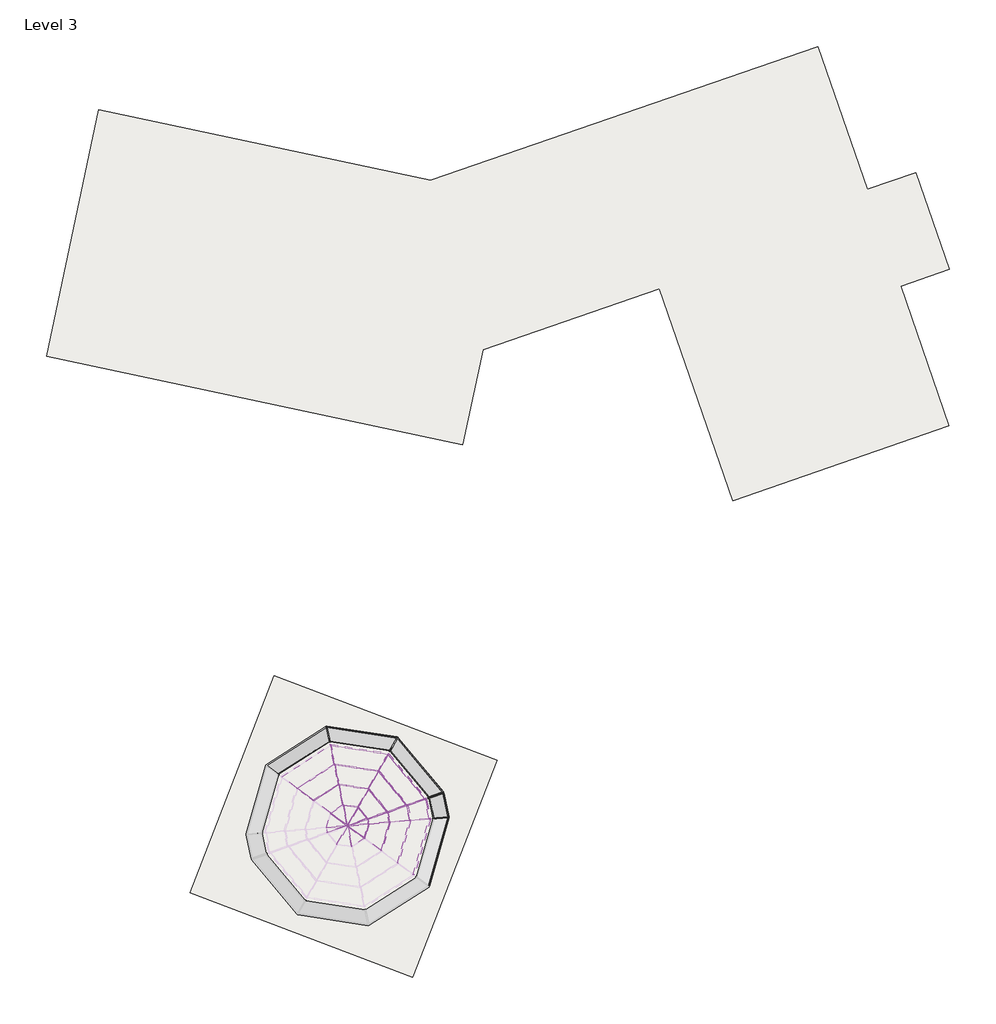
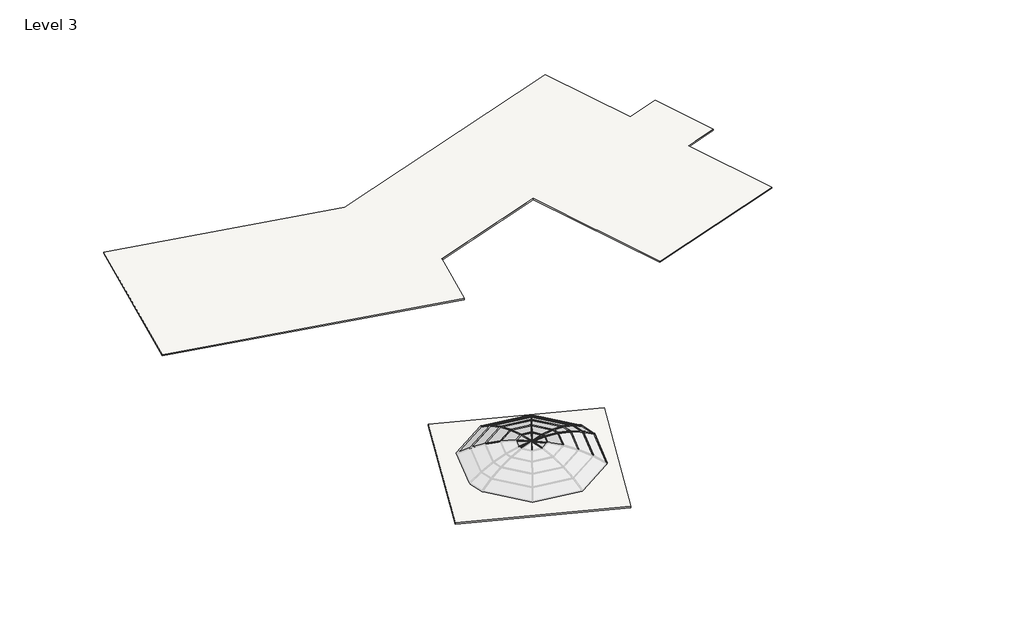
# One storey, part 2 of 2: 53 members, 25 plates, 1 slab.
"""IFC4 building model written with IfcOpenShell, lengths in millimetres."""

from ifc_helpers import new_model, si_unit, frame, origin, place, context, project, spatial, polyline, outline, extrude, transform, mapped, element, save
from components import rectangular_mullion_50_x_150mm_0909581f, rectangular_mullion_50_x_150mm_8f23feb4, rectangular_mullion_50_x_150mm_fa7cbd31, rectangular_mullion_50_x_150mm_524ad4e4, rectangular_mullion_50_x_150mm_5546df2b, rectangular_mullion_50_x_150mm_b59a5eb5, rectangular_mullion_50_x_150mm_e05598f6, rectangular_mullion_50_x_150mm_a9043509, rectangular_mullion_50_x_150mm_2f4e9f07, rectangular_mullion_50_x_150mm_9374ec4e, rectangular_mullion_50_x_150mm_1d4ffcc8, rectangular_mullion_50_x_150mm_7729aa8c, rectangular_mullion_50_x_150mm_591d99be, rectangular_mullion_50_x_150mm_0f1075ed, rectangular_mullion_50_x_150mm_c27df651, rectangular_mullion_50_x_150mm_b8fa2365, rectangular_mullion_50_x_150mm_1a41200d, rectangular_mullion_50_x_150mm_fc893f09, rectangular_mullion_50_x_150mm_32bfd31b, rectangular_mullion_50_x_150mm_eddbecf3, rectangular_mullion_50_x_150mm_9946c6b2, rectangular_mullion_50_x_150mm_2f072838, rectangular_mullion_50_x_150mm_7f1d5474, rectangular_mullion_50_x_150mm_eba0d472, rectangular_mullion_50_x_150mm_90fb33a8, rectangular_mullion_50_x_150mm_7cf9c824, rectangular_mullion_50_x_150mm_acd3cb19, rectangular_mullion_50_x_150mm_fa5f5fe4, rectangular_mullion_50_x_150mm_29780cc7, system_panel_glazed_c7fad30a, system_panel_glazed_a26e994d, system_panel_glazed_567528ff, system_panel_glazed_ac238529, system_panel_glazed_37e80246, system_panel_glazed_b58a9e73, system_panel_glazed_1f3aabbd, system_panel_glazed_1b0430f5, system_panel_glazed_21f1f6a8, system_panel_glazed_6bfca4de, system_panel_glazed_ad1a7a07, system_panel_glazed_1b021a4a, system_panel_glazed_64c42520, system_panel_glazed_b4e5deec, system_panel_glazed_fcd4964b, system_panel_glazed_13aa26b2, system_panel_glazed_f44d88c0, system_panel_glazed_820ae4db, system_panel_glazed_345259cc, system_panel_glazed_0d988e88

model = new_model("IFC4")

# Units and contexts
model_context = context("Model", 3, world=origin())
ifc_project = project(units=[si_unit("LENGTHUNIT", "METRE", prefix="MILLI")], contexts=[model_context])

# Site, building, storey
site = spatial("IfcSite", under=ifc_project)
building = spatial("IfcBuilding", under=site)
storey = spatial("IfcBuildingStorey", under=building, Name="Level 3", Elevation=8400.0)

# Members
placement = place(None, origin())
rectangular_mullion_50_x_150mm_shape = rectangular_mullion_50_x_150mm_0909581f(model_context)
element("IfcMember", 1, ObjectType="Rectangular Mullion : 50 x 150mm", at=placement, inside=storey, context=model_context, shape_type="MappedRepresentation", body=[
    mapped(rectangular_mullion_50_x_150mm_shape, transform((466956.3515694, -15447.4692946, 11000.1218974), x_axis=(-0.3264366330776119, 0.9452172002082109, 0.0018891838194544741), y_axis=(-0.015041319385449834, -0.003196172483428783, -0.9998817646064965), z_axis=(-0.945099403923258, -0.32642645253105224, 0.01526066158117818))),
])
element("IfcMember", 2, ObjectType="Rectangular Mullion : 50 x 150mm", at=placement, inside=storey, context=model_context, shape_type="MappedRepresentation", body=[
    mapped(rectangular_mullion_50_x_150mm_shape, transform((466951.5499053, -15449.1277341, 11000.1218974), x_axis=(0.32643663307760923, -0.9452172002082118, 0.001889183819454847), y_axis=(0.015041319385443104, 0.0031961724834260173, -0.9998817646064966), z_axis=(0.945099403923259, 0.32642645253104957, 0.015260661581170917))),
])
rectangular_mullion_50_x_150mm_2_shape = rectangular_mullion_50_x_150mm_8f23feb4(model_context)
element("IfcMember", 3, ObjectType="Rectangular Mullion : 50 x 150mm", at=placement, inside=storey, context=model_context, shape_type="MappedRepresentation", body=[
    mapped(rectangular_mullion_50_x_150mm_2_shape, transform((466952.7000097, -15450.5092338, 11000.1218974), x_axis=(0.8703619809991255, -0.49241245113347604, -1.2647649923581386e-12), y_axis=(0.007514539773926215, 0.013282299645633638, -0.9998835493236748), z_axis=(0.4923551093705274, 0.8702606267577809, 0.01526066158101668))),
])
element("IfcMember", 4, ObjectType="Rectangular Mullion : 50 x 150mm", at=placement, inside=storey, context=model_context, shape_type="MappedRepresentation", body=[
    mapped(rectangular_mullion_50_x_150mm_2_shape, transform((466954.4765406, -15450.7834955, 11000.1218974), x_axis=(0.9783390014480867, 0.2070091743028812, 1.9024489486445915e-12), y_axis=(-0.0031590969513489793, 0.014930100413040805, -0.9998835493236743), z_axis=(-0.2069850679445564, 0.9782250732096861, 0.015260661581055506))),
])
element("IfcMember", 5, ObjectType="Rectangular Mullion : 50 x 150mm", at=placement, inside=storey, context=model_context, shape_type="MappedRepresentation", body=[
    mapped(rectangular_mullion_50_x_150mm_2_shape, transform((466955.9897232, -15449.8131552, 11000.1218974), x_axis=(0.5963152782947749, 0.80275032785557, 1.377597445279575e-12), y_axis=(-0.012250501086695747, 0.009100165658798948, -0.9998835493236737), z_axis=(-0.8026568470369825, 0.5962458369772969, 0.015260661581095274))),
])
element("IfcMember", 6, ObjectType="Rectangular Mullion : 50 x 150mm", at=placement, inside=storey, context=model_context, shape_type="MappedRepresentation", body=[
    mapped(rectangular_mullion_50_x_150mm_2_shape, transform((466956.4816803, -15448.0842076, 11000.1218974), x_axis=(-0.08437274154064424, 0.9964342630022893, 0.0), y_axis=(-0.015206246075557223, -0.0012875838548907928, -0.9998835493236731), z_axis=(-0.9963182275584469, -0.08436291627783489, 0.015260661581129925))),
])
element("IfcMember", 7, ObjectType="Rectangular Mullion : 50 x 150mm", at=placement, inside=storey, context=model_context, shape_type="MappedRepresentation", body=[
    mapped(rectangular_mullion_50_x_150mm_2_shape, transform((466955.2014649, -15446.087795, 11000.1218974), x_axis=(-0.8703619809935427, 0.492412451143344, 0.0), y_axis=(-0.007514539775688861, -0.013282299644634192, -0.9998835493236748), z_axis=(-0.4923551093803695, -0.8702606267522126, 0.015260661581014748))),
])
element("IfcMember", 8, ObjectType="Rectangular Mullion : 50 x 150mm", at=placement, inside=storey, context=model_context, shape_type="MappedRepresentation", body=[
    mapped(rectangular_mullion_50_x_150mm_2_shape, transform((466953.424934, -15445.8135333, 11000.1218974), x_axis=(-0.9783390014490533, -0.20700917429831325, 0.0), y_axis=(0.0031590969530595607, -0.014930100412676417, -0.9998835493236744), z_axis=(0.20698506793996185, -0.9782250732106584, 0.015260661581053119))),
])
element("IfcMember", 9, ObjectType="Rectangular Mullion : 50 x 150mm", at=placement, inside=storey, context=model_context, shape_type="MappedRepresentation", body=[
    mapped(rectangular_mullion_50_x_150mm_2_shape, transform((466951.9117515, -15446.7838736, 11000.1218974), x_axis=(-0.5963152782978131, -0.8027503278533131, 0.0), y_axis=(0.012250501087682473, -0.009100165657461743, -0.9998835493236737), z_axis=(0.8026568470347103, -0.5962458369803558, 0.015260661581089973))),
])
element("IfcMember", 10, ObjectType="Rectangular Mullion : 50 x 150mm", at=placement, inside=storey, context=model_context, shape_type="MappedRepresentation", body=[
    mapped(rectangular_mullion_50_x_150mm_2_shape, transform((466951.4197943, -15448.5128212, 11000.1218974), x_axis=(0.08437274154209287, -0.9964342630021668, 0.0), y_axis=(0.015206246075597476, 0.0012875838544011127, -0.9998835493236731), z_axis=(0.9963182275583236, 0.08436291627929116, 0.015260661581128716))),
])
rectangular_mullion_50_x_150mm_3_shape = rectangular_mullion_50_x_150mm_fa7cbd31(model_context)
element("IfcMember", 11, ObjectType="Rectangular Mullion : 50 x 150mm", at=placement, inside=storey, context=model_context, shape_type="MappedRepresentation", body=[
    mapped(rectangular_mullion_50_x_150mm_3_shape, transform((467708.4798121, -14162.1188113, 10977.2696344), x_axis=(0.7664844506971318, 0.6381016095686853, -0.07299262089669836), y_axis=(-0.05609734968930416, -0.0467012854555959, -0.9973324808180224), z_axis=(-0.639808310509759, 0.7685345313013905, 0.0))),
])
rectangular_mullion_50_x_150mm_4_shape = rectangular_mullion_50_x_150mm_524ad4e4(model_context)
element("IfcMember", 12, ObjectType="Rectangular Mullion : 50 x 150mm", at=placement, inside=storey, context=model_context, shape_type="MappedRepresentation", body=[
    mapped(rectangular_mullion_50_x_150mm_4_shape, transform((468441.5885625, -15345.799468, 10977.2696344), x_axis=(0.9592556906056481, -0.27294797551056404, -0.07299262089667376), y_axis=(-0.07020586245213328, 0.019976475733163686, -0.9973324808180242), z_axis=(0.27367801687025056, 0.9618213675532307, 0.0))),
])
element("IfcMember", 13, ObjectType="Rectangular Mullion : 50 x 150mm", at=placement, inside=storey, context=model_context, shape_type="MappedRepresentation", body=[
    mapped(rectangular_mullion_50_x_150mm_4_shape, transform((466668.1799348, -13984.7728393, 10977.2696344), x_axis=(0.1521659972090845, 0.9856559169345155, -0.07299262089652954), y_axis=(-0.011136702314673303, -0.07213803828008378, -0.9973324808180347), z_axis=(-0.9882922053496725, 0.15257298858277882, 0.0))),
])
rectangular_mullion_50_x_150mm_5_shape = rectangular_mullion_50_x_150mm_5546df2b(model_context)
element("IfcMember", 14, ObjectType="Rectangular Mullion : 50 x 150mm", at=placement, inside=storey, context=model_context, shape_type="MappedRepresentation", body=[
    mapped(rectangular_mullion_50_x_150mm_5_shape, transform((468381.952611, -15007.5749881, 10977.2696344), x_axis=(0.9753948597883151, 0.2063862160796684, -0.07752159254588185), y_axis=(-0.07584239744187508, -0.016047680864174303, -0.9969906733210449), z_axis=(-0.20700917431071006, 0.97833900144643, 0.0))),
])
rectangular_mullion_50_x_150mm_6_shape = rectangular_mullion_50_x_150mm_b59a5eb5(model_context)
element("IfcMember", 15, ObjectType="Rectangular Mullion : 50 x 150mm", at=placement, inside=storey, context=model_context, shape_type="MappedRepresentation", body=[
    mapped(rectangular_mullion_50_x_150mm_6_shape, transform((468439.707526, -12869.6397113, 10765.6005375), x_axis=(0.7544484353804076, 0.628081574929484, -0.1905809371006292), y_axis=(-0.1464680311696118, -0.12193526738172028, -0.9816714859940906), z_axis=(-0.6398083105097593, 0.76853453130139, 0.0))),
])
rectangular_mullion_50_x_150mm_7_shape = rectangular_mullion_50_x_150mm_e05598f6(model_context)
element("IfcMember", 16, ObjectType="Rectangular Mullion : 50 x 150mm", at=placement, inside=storey, context=model_context, shape_type="MappedRepresentation", body=[
    mapped(rectangular_mullion_50_x_150mm_7_shape, transform((469921.2837784, -15220.5067652, 10765.6005375), x_axis=(0.944192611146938, -0.2686619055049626, -0.1905809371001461), y_axis=(-0.18330481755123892, 0.052157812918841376, -0.9816714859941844), z_axis=(0.27367801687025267, 0.9618213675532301, 0.0))),
])
element("IfcMember", 17, ObjectType="Rectangular Mullion : 50 x 150mm", at=placement, inside=storey, context=model_context, shape_type="MappedRepresentation", body=[
    mapped(rectangular_mullion_50_x_150mm_7_shape, transform((466360.7733188, -12531.9489112, 10765.6005375), x_axis=(0.1497765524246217, 0.9701782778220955, -0.1905809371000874), y_axis=(-0.029077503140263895, -0.18834965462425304, -0.9816714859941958), z_axis=(-0.9882922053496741, 0.15257298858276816, 0.0))),
])
element("IfcMember", 18, ObjectType="Rectangular Mullion : 50 x 150mm", at=placement, inside=storey, context=model_context, shape_type="MappedRepresentation", body=[
    mapped(rectangular_mullion_50_x_150mm_7_shape, transform((464578.9318123, -13654.9107806, 10765.6005375), x_axis=(-0.5299108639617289, 0.8263615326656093, -0.19058093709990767), y_axis=(0.1028764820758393, -0.16042918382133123, -0.9816714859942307), z_axis=(-0.8417902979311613, -0.5398046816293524, 0.0))),
])
rectangular_mullion_50_x_150mm_8_shape = rectangular_mullion_50_x_150mm_a9043509(model_context)
element("IfcMember", 19, ObjectType="Rectangular Mullion : 50 x 150mm", at=placement, inside=storey, context=model_context, shape_type="MappedRepresentation", body=[
    mapped(rectangular_mullion_50_x_150mm_8_shape, transform((469785.5795124, -14522.7784173, 10765.6005375), x_axis=(0.9582144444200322, 0.2027509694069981, -0.2017848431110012), y_axis=(-0.19741398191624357, -0.04177131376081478, -0.979429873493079), z_axis=(-0.20700917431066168, 0.9783390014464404, 0.0))),
])
rectangular_mullion_50_x_150mm_9_shape = rectangular_mullion_50_x_150mm_2f4e9f07(model_context)
element("IfcMember", 20, ObjectType="Rectangular Mullion : 50 x 150mm", at=placement, inside=storey, context=model_context, shape_type="MappedRepresentation", body=[
    mapped(rectangular_mullion_50_x_150mm_9_shape, transform((469151.9560944, -11610.7071366, 10368.3717003), x_axis=(0.7316393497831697, 0.6090929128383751, -0.30612037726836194), y_axis=(-0.23526408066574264, -0.19585836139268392, -0.951992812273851), z_axis=(-0.6398083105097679, 0.7685345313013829, 0.0))),
])
rectangular_mullion_50_x_150mm_10_shape = rectangular_mullion_50_x_150mm_9374ec4e(model_context)
element("IfcMember", 21, ObjectType="Rectangular Mullion : 50 x 150mm", at=placement, inside=storey, context=model_context, shape_type="MappedRepresentation", body=[
    mapped(rectangular_mullion_50_x_150mm_10_shape, transform((471362.5732415, -15098.4660568, 10368.3717003), x_axis=(0.9156470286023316, -0.2605395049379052, -0.3061203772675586), y_axis=(-0.2944331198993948, 0.08377841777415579, -0.9519928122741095), z_axis=(0.27367801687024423, 0.9618213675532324, 0.0))),
])
element("IfcMember", 22, ObjectType="Rectangular Mullion : 50 x 150mm", at=placement, inside=storey, context=model_context, shape_type="MappedRepresentation", body=[
    mapped(rectangular_mullion_50_x_150mm_10_shape, transform((466061.3454963, -11116.833287, 10368.3717003), x_axis=(0.14524838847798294, 0.9408470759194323, -0.3061203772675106), y_axis=(-0.046705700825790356, -0.30253638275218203, -0.9519928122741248), z_axis=(-0.9882922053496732, 0.15257298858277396, 0.0))),
])
rectangular_mullion_50_x_150mm_11_shape = rectangular_mullion_50_x_150mm_1d4ffcc8(model_context)
element("IfcMember", 23, ObjectType="Rectangular Mullion : 50 x 150mm", at=placement, inside=storey, context=model_context, shape_type="MappedRepresentation", body=[
    mapped(rectangular_mullion_50_x_150mm_11_shape, transform((471152.7750276, -14050.5648278, 10368.3717003), x_axis=(0.9259277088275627, 0.1959193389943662, -0.322914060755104), y_axis=(-0.3159194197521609, -0.06684617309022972, -0.9464282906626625), z_axis=(-0.20700917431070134, 0.978339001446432, 0.0))),
])
rectangular_mullion_50_x_150mm_12_shape = rectangular_mullion_50_x_150mm_7729aa8c(model_context)
element("IfcMember", 24, ObjectType="Rectangular Mullion : 50 x 150mm", at=placement, inside=storey, context=model_context, shape_type="MappedRepresentation", body=[
    mapped(rectangular_mullion_50_x_150mm_12_shape, transform((469833.8554994, -10405.4181242, 9791.9243064), x_axis=(0.6980475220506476, 0.5811275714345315, -0.418354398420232), y_axis=(-0.32151980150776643, -0.26766662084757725, -0.9082838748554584), z_axis=(-0.639808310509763, 0.7685345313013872, 0.0))),
])
rectangular_mullion_50_x_150mm_13_shape = rectangular_mullion_50_x_150mm_591d99be(model_context)
element("IfcMember", 25, ObjectType="Rectangular Mullion : 50 x 150mm", at=placement, inside=storey, context=model_context, shape_type="MappedRepresentation", body=[
    mapped(rectangular_mullion_50_x_150mm_13_shape, transform((472742.4488508, -14981.6255461, 9791.9243064), x_axis=(0.8736068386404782, -0.24857732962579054, -0.4183543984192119), y_axis=(-0.4023821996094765, 0.11449440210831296, -0.9082838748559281), z_axis=(0.27367801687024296, 0.9618213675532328, 0.0))),
])
element("IfcMember", 26, ObjectType="Rectangular Mullion : 50 x 150mm", at=placement, inside=storey, context=model_context, shape_type="MappedRepresentation", body=[
    mapped(rectangular_mullion_50_x_150mm_13_shape, transform((465774.6763992, -9762.01624, 9791.9243064), x_axis=(0.13857958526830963, 0.8976498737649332, -0.4183543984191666), y_axis=(-0.0638295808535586, -0.4134563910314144, -0.9082838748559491), z_axis=(-0.988292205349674, 0.15257298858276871, 0.0))),
])
rectangular_mullion_50_x_150mm_14_shape = rectangular_mullion_50_x_150mm_0f1075ed(model_context)
element("IfcMember", 27, ObjectType="Rectangular Mullion : 50 x 150mm", at=placement, inside=storey, context=model_context, shape_type="MappedRepresentation", body=[
    mapped(rectangular_mullion_50_x_150mm_14_shape, transform((472461.7138584, -13598.4724264, 9791.9243064), x_axis=(0.8789890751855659, 0.18598747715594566, -0.43907500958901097), y_axis=(-0.42956420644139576, -0.09089255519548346, -0.8984504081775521), z_axis=(-0.20700917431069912, 0.9783390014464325, 0.0))),
])
rectangular_mullion_50_x_150mm_15_shape = rectangular_mullion_50_x_150mm_c27df651(model_context)
element("IfcMember", 28, ObjectType="Rectangular Mullion : 50 x 150mm", at=placement, inside=storey, context=model_context, shape_type="MappedRepresentation", body=[
    mapped(rectangular_mullion_50_x_150mm_15_shape, transform((470474.5202036, -9273.0133692, 9045.4605044), x_axis=(0.6537057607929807, 0.5442128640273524, -0.5258337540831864), y_axis=(-0.40412139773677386, -0.33643280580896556, -0.8505873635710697), z_axis=(-0.6398083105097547, 0.768534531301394, 0.0))),
])
rectangular_mullion_50_x_150mm_16_shape = rectangular_mullion_50_x_150mm_b8fa2365(model_context)
element("IfcMember", 29, ObjectType="Rectangular Mullion : 50 x 150mm", at=placement, inside=storey, context=model_context, shape_type="MappedRepresentation", body=[
    mapped(rectangular_mullion_50_x_150mm_16_shape, transform((474038.8828887, -14871.8504229, 9045.4605044), x_axis=(0.818113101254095, -0.23278706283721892, -0.5258337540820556), y_axis=(-0.5057581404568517, 0.143909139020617, -0.8505873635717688), z_axis=(0.2736780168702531, 0.9618213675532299, 0.0))),
])
element("IfcMember", 30, ObjectType="Rectangular Mullion : 50 x 150mm", at=placement, inside=storey, context=model_context, shape_type="MappedRepresentation", body=[
    mapped(rectangular_mullion_50_x_150mm_16_shape, transform((465505.3422848, -8489.1254642, 9045.4605044), x_axis=(0.12977665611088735, 0.840628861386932, -0.5258337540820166), y_axis=(-0.08022802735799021, -0.5196774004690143, -0.8505873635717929), z_axis=(-0.9882922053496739, 0.15257298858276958, 0.0))),
])
rectangular_mullion_50_x_150mm_17_shape = rectangular_mullion_50_x_150mm_1a41200d(model_context)
element("IfcMember", 31, ObjectType="Rectangular Mullion : 50 x 150mm", at=placement, inside=storey, context=model_context, shape_type="MappedRepresentation", body=[
    mapped(rectangular_mullion_50_x_150mm_17_shape, transform((473691.5006901, -13173.7182141, 9045.4605044), x_axis=(0.8180663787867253, 0.1730966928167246, -0.5484568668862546), y_axis=(-0.5365767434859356, -0.1135356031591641, -0.8361788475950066), z_axis=(-0.20700917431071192, 0.9783390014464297, 0.0))),
])
rectangular_mullion_50_x_150mm_18_shape = rectangular_mullion_50_x_150mm_fc893f09(model_context)
element("IfcMember", 32, ObjectType="Rectangular Mullion : 50 x 150mm", at=placement, inside=storey, context=model_context, shape_type="MappedRepresentation", body=[
    mapped(rectangular_mullion_50_x_150mm_18_shape, transform((468371.6021523, -14958.6580381, 10977.2696344), x_axis=(-0.32406754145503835, 0.9458736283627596, 0.01741573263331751), y_axis=(-0.1391035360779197, -0.02943326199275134, -0.9898403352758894), z_axis=(-0.9357512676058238, -0.32319771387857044, 0.1411127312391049))),
])
rectangular_mullion_50_x_150mm_19_shape = rectangular_mullion_50_x_150mm_32bfd31b(model_context)
element("IfcMember", 33, ObjectType="Rectangular Mullion : 50 x 150mm", at=placement, inside=storey, context=model_context, shape_type="MappedRepresentation", body=[
    mapped(rectangular_mullion_50_x_150mm_19_shape, transform((469775.2290537, -14473.8614672, 10765.6005375), x_axis=(-0.31802625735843, 0.9475476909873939, 0.03182252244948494), y_axis=(-0.26094686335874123, -0.055214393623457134, -0.963772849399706), z_axis=(-0.9114636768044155, -0.3148090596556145, 0.2648192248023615))),
])
rectangular_mullion_50_x_150mm_20_shape = rectangular_mullion_50_x_150mm_eddbecf3(model_context)
element("IfcMember", 34, ObjectType="Rectangular Mullion : 50 x 150mm", at=placement, inside=storey, context=model_context, shape_type="MappedRepresentation", body=[
    mapped(rectangular_mullion_50_x_150mm_20_shape, transform((471142.4245689, -14001.6478778, 10368.3717003), x_axis=(-0.30870523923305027, 0.950130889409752, 0.04418561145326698), y_axis=(-0.3784509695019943, -0.08007737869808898, -0.9221510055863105), z_axis=(-0.8726258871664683, -0.3013949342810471, 0.3842982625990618))),
])
rectangular_mullion_50_x_150mm_21_shape = rectangular_mullion_50_x_150mm_9946c6b2(model_context)
element("IfcMember", 35, ObjectType="Rectangular Mullion : 50 x 150mm", at=placement, inside=storey, context=model_context, shape_type="MappedRepresentation", body=[
    mapped(rectangular_mullion_50_x_150mm_21_shape, transform((472451.3633997, -13549.5554763, 9791.9243064), x_axis=(-0.2967079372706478, 0.9534563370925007, 0.053716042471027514), y_axis=(-0.4896911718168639, -0.1036149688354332, -0.8657173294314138), z_axis=(-0.819857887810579, -0.2831694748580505, 0.49764253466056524))),
])
rectangular_mullion_50_x_150mm_22_shape = rectangular_mullion_50_x_150mm_2f072838(model_context)
element("IfcMember", 36, ObjectType="Rectangular Mullion : 50 x 150mm", at=placement, inside=storey, context=model_context, shape_type="MappedRepresentation", body=[
    mapped(rectangular_mullion_50_x_150mm_22_shape, transform((468448.4305129, -15321.7539339, 10977.2696344), x_axis=(-0.08437274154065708, 0.9964342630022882, 0.0), y_axis=(-0.1406095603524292, -0.01190606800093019, -0.9899935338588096), z_axis=(-0.986463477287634, -0.08352846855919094, 0.14111273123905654))),
])
element("IfcMember", 37, ObjectType="Rectangular Mullion : 50 x 150mm", at=placement, inside=storey, context=model_context, shape_type="MappedRepresentation", body=[
    mapped(rectangular_mullion_50_x_150mm_22_shape, transform((467692.4846043, -14142.905448, 10977.2696344), x_axis=(-0.8703619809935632, 0.49241245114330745, 0.0), y_axis=(-0.0694856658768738, -0.12281915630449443, -0.9899935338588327), z_axis=(-0.4874851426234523, -0.8616527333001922, 0.14111273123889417))),
])
element("IfcMember", 38, ObjectType="Rectangular Mullion : 50 x 150mm", at=placement, inside=storey, context=model_context, shape_type="MappedRepresentation", body=[
    mapped(rectangular_mullion_50_x_150mm_22_shape, transform((466643.4726297, -13980.9585145, 10977.2696344), x_axis=(-0.9783390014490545, -0.20700917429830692, 0.0), y_axis=(0.02921162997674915, -0.13805608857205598, -0.9899935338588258), z_axis=(0.20493774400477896, -0.9685492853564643, 0.14111273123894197))),
])
rectangular_mullion_50_x_150mm_23_shape = rectangular_mullion_50_x_150mm_7f1d5474(model_context)
element("IfcMember", 39, ObjectType="Rectangular Mullion : 50 x 150mm", at=placement, inside=storey, context=model_context, shape_type="MappedRepresentation", body=[
    mapped(rectangular_mullion_50_x_150mm_23_shape, transform((469928.1257288, -15196.461231, 10765.6005375), x_axis=(-0.08437274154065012, 0.9964342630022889, 0.0), y_axis=(-0.2638749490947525, -0.022343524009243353, -0.964298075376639), z_axis=(-0.960859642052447, -0.08136047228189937, 0.26481922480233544))),
])
element("IfcMember", 40, ObjectType="Rectangular Mullion : 50 x 150mm", at=placement, inside=storey, context=model_context, shape_type="MappedRepresentation", body=[
    mapped(rectangular_mullion_50_x_150mm_23_shape, transform((471369.4151919, -15074.4205226, 10368.3717003), x_axis=(-0.0843727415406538, 0.9964342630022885, 0.0), y_axis=(-0.3829279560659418, -0.03242429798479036, -0.923208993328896), z_axis=(-0.9199170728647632, -0.0778936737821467, 0.38429826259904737))),
])
element("IfcMember", 41, ObjectType="Rectangular Mullion : 50 x 150mm", at=placement, inside=storey, context=model_context, shape_type="MappedRepresentation", body=[
    mapped(rectangular_mullion_50_x_150mm_23_shape, transform((468423.7123183, -12850.4263481, 10765.6005375), x_axis=(-0.8703619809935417, 0.49241245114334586, 0.0), y_axis=(-0.13040028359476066, -0.23048858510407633, -0.9642980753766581), z_axis=(-0.47483237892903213, -0.839288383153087, 0.2648192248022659))),
])
element("IfcMember", 42, ObjectType="Rectangular Mullion : 50 x 150mm", at=placement, inside=storey, context=model_context, shape_type="MappedRepresentation", body=[
    mapped(rectangular_mullion_50_x_150mm_23_shape, transform((469135.9608867, -11591.4937733, 10368.3717003), x_axis=(-0.8703619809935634, 0.49241245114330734, 0.0), y_axis=(-0.18923324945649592, -0.334478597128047, -0.9232089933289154), z_axis=(-0.4545996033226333, -0.8035260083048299, 0.3842982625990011))),
])
element("IfcMember", 43, ObjectType="Rectangular Mullion : 50 x 150mm", at=placement, inside=storey, context=model_context, shape_type="MappedRepresentation", body=[
    mapped(rectangular_mullion_50_x_150mm_23_shape, transform((466336.0660137, -12528.1345865, 10765.6005375), x_axis=(-0.9783390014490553, -0.2070091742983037, 0.0), y_axis=(0.05482000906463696, -0.2590829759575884, -0.9642980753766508), z_axis=(0.19961854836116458, -0.9434104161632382, 0.2648192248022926))),
])
element("IfcMember", 44, ObjectType="Rectangular Mullion : 50 x 150mm", at=placement, inside=storey, context=model_context, shape_type="MappedRepresentation", body=[
    mapped(rectangular_mullion_50_x_150mm_23_shape, transform((466036.6381911, -11113.0189623, 10368.3717003), x_axis=(-0.9783390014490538, -0.20700917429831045, 0.0), y_axis=(0.07955326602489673, -0.3759739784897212, -0.9232089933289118), z_axis=(0.1911127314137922, -0.9032113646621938, 0.38429826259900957))),
])
element("IfcMember", 45, ObjectType="Rectangular Mullion : 50 x 150mm", at=placement, inside=storey, context=model_context, shape_type="MappedRepresentation", body=[
    mapped(rectangular_mullion_50_x_150mm_23_shape, transform((464557.8870549, -13668.4058977, 10765.6005375), x_axis=(-0.596315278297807, -0.8027503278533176, 0.0), y_axis=(0.21258371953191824, -0.1579157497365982, -0.9642980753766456), z_axis=(0.7740905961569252, -0.5750256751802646, 0.2648192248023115))),
])
rectangular_mullion_50_x_150mm_24_shape = rectangular_mullion_50_x_150mm_eba0d472(model_context)
element("IfcMember", 46, ObjectType="Rectangular Mullion : 50 x 150mm", at=placement, inside=storey, context=model_context, shape_type="MappedRepresentation", body=[
    mapped(rectangular_mullion_50_x_150mm_24_shape, transform((472749.2908012, -14957.5800119, 9791.9243064), x_axis=(-0.08437274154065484, 0.9964342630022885, 0.0), y_axis=(-0.4958680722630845, -0.04198746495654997, -0.8673822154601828), z_axis=(-0.8642893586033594, -0.07318341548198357, 0.4976425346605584))),
])
element("IfcMember", 47, ObjectType="Rectangular Mullion : 50 x 150mm", at=placement, inside=storey, context=model_context, shape_type="MappedRepresentation", body=[
    mapped(rectangular_mullion_50_x_150mm_24_shape, transform((469817.8602916, -10386.2047609, 9791.9243064), x_axis=(-0.8703619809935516, 0.4924124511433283, 0.0), y_axis=(-0.24504538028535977, -0.43312914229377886, -0.8673822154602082), z_axis=(-0.4271098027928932, -0.7549365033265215, 0.4976425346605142))),
])
element("IfcMember", 48, ObjectType="Rectangular Mullion : 50 x 150mm", at=placement, inside=storey, context=model_context, shape_type="MappedRepresentation", body=[
    mapped(rectangular_mullion_50_x_150mm_24_shape, transform((465749.969094, -9758.2019153, 9791.9243064), x_axis=(-0.9783390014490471, -0.2070091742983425, 0.0), y_axis=(0.10301657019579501, -0.48686310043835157, -0.8673822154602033), z_axis=(0.1795560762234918, -0.8485938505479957, 0.4976425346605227))),
])
rectangular_mullion_50_x_150mm_25_shape = rectangular_mullion_50_x_150mm_90fb33a8(model_context)
element("IfcMember", 49, ObjectType="Rectangular Mullion : 50 x 150mm", at=placement, inside=storey, context=model_context, shape_type="MappedRepresentation", body=[
    mapped(rectangular_mullion_50_x_150mm_25_shape, transform((468371.6021523, -14958.6580381, 10977.2696344), x_axis=(0.3265418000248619, -0.9451653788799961, 0.0057323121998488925), y_axis=(-0.012552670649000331, -0.010400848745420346, -0.9998671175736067), z_axis=(0.9450994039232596, 0.3264264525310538, -0.015260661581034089))),
])
rectangular_mullion_50_x_150mm_26_shape = rectangular_mullion_50_x_150mm_7cf9c824(model_context)
element("IfcMember", 50, ObjectType="Rectangular Mullion : 50 x 150mm", at=placement, inside=storey, context=model_context, shape_type="MappedRepresentation", body=[
    mapped(rectangular_mullion_50_x_150mm_26_shape, transform((469775.2290537, -14473.8614672, 10765.6005375), x_axis=(0.3331109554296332, -0.9414093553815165, 0.05277799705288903), y_axis=(-0.11578711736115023, -0.09639327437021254, -0.9885856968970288), z_axis=(0.9357512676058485, 0.3231977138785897, -0.1411127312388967))),
])
rectangular_mullion_50_x_150mm_27_shape = rectangular_mullion_50_x_150mm_acd3cb19(model_context)
element("IfcMember", 51, ObjectType="Rectangular Mullion : 50 x 150mm", at=placement, inside=storey, context=model_context, shape_type="MappedRepresentation", body=[
    mapped(rectangular_mullion_50_x_150mm_27_shape, transform((471142.4245689, -14001.6478778, 10368.3717003), x_axis=(0.34979164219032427, -0.9318822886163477, 0.09613119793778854), y_axis=(-0.21651737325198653, -0.18025164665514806, -0.9594944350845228), z_axis=(0.9114636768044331, 0.31480905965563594, -0.2648192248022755))),
])
rectangular_mullion_50_x_150mm_28_shape = rectangular_mullion_50_x_150mm_fa5f5fe4(model_context)
element("IfcMember", 52, ObjectType="Rectangular Mullion : 50 x 150mm", at=placement, inside=storey, context=model_context, shape_type="MappedRepresentation", body=[
    mapped(rectangular_mullion_50_x_150mm_28_shape, transform((472451.3633997, -13549.5554763, 9791.9243064), x_axis=(0.3753307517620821, -0.9173237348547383, 0.13283069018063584), y_axis=(-0.31249142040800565, -0.260150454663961, -0.9136032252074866), z_axis=(0.8726258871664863, 0.30139493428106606, -0.3842982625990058))),
])
rectangular_mullion_50_x_150mm_29_shape = rectangular_mullion_50_x_150mm_29780cc7(model_context)
element("IfcMember", 53, ObjectType="Rectangular Mullion : 50 x 150mm", at=placement, inside=storey, context=model_context, shape_type="MappedRepresentation", body=[
    mapped(rectangular_mullion_50_x_150mm_29_shape, transform((473681.1502314, -13124.801264, 9045.4605044), x_axis=(0.4078582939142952, -0.8988303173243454, 0.16048574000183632), y_axis=(-0.40185153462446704, -0.33454313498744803, -0.8524061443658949), z_axis=(0.8198578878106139, 0.2831694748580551, -0.4976425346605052))),
])

# Plates
system_panel_glazed_shape = system_panel_glazed_c7fad30a(model_context)
element("IfcPlate", 54, ObjectType="System Panel : Glazed", at=placement, inside=storey, context=model_context, shape_type="MappedRepresentation", body=[
    mapped(system_panel_glazed_shape, transform((467553.0349876, -15507.7015828, 10993.9496517), x_axis=(0.9999617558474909, 0.00011928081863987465, -0.008744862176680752), y_axis=(0.008745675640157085, -0.013638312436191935, 0.9998687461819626), z_axis=(0.0, -0.9999069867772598, -0.013638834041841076))),
])
system_panel_glazed_2_shape = system_panel_glazed_a26e994d(model_context)
element("IfcPlate", 55, ObjectType="System Panel : Glazed", at=placement, inside=storey, context=model_context, shape_type="MappedRepresentation", body=[
    mapped(system_panel_glazed_2_shape, transform((467718.1926964, -15349.7654228, 10988.5262063), x_axis=(0.9998785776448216, 6.91035741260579e-05, -0.01558284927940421), y_axis=(0.015583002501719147, -0.004434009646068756, 0.9998687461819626), z_axis=(0.0, -0.9999901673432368, -0.00443454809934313))),
])
system_panel_glazed_3_shape = system_panel_glazed_567528ff(model_context)
element("IfcPlate", 56, ObjectType="System Panel : Glazed", at=placement, inside=storey, context=model_context, shape_type="MappedRepresentation", body=[
    mapped(system_panel_glazed_3_shape, transform((467835.5972381, -15016.1528208, 10985.460311), x_axis=(0.9998883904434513, -4.723412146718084e-05, -0.014940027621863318), y_axis=(0.014940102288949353, 0.0031612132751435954, 0.999883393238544), z_axis=(0.0, -0.9999950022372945, 0.003161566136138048))),
])
system_panel_glazed_4_shape = system_panel_glazed_ac238529(model_context)
element("IfcPlate", 57, ObjectType="System Panel : Glazed", at=placement, inside=storey, context=model_context, shape_type="MappedRepresentation", body=[
    mapped(system_panel_glazed_4_shape, transform((468042.4987582, -14524.7124944, 10973.503144), x_axis=(-0.6398083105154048, 0.7685345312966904, 0.0), y_axis=(0.11578711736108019, 0.09639327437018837, 0.9885856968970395), z_axis=(0.7597622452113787, 0.6325053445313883, -0.15065961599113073))),
])
system_panel_glazed_5_shape = system_panel_glazed_37e80246(model_context)
element("IfcPlate", 58, ObjectType="System Panel : Glazed", at=placement, inside=storey, context=model_context, shape_type="MappedRepresentation", body=[
    mapped(system_panel_glazed_5_shape, transform((468326.9553121, -15838.9751846, 10973.503144), x_axis=(0.27367801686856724, 0.9618213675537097, 0.0), y_axis=(0.14490763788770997, -0.04123222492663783, 0.9885856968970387), z_axis=(0.9508428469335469, -0.2705541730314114, -0.1506596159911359))),
])
element("IfcPlate", 59, ObjectType="System Panel : Glazed", at=placement, inside=storey, context=model_context, shape_type="MappedRepresentation", body=[
    mapped(system_panel_glazed_5_shape, transform((467171.7494039, -14037.5066928, 10973.503144), x_axis=(-0.9882922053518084, 0.15257298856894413, 0.0), y_axis=(0.02298658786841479, 0.14889572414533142, 0.9885856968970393), z_axis=(0.15083147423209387, 0.9770115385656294, -0.15065961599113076))),
])
element("IfcPlate", 60, ObjectType="System Panel : Glazed", at=placement, inside=storey, context=model_context, shape_type="MappedRepresentation", body=[
    mapped(system_panel_glazed_5_shape, transform((466183.376988, -14246.6388621, 10973.503144), x_axis=(-0.8417902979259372, -0.5398046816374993, 0.0), y_axis=(-0.0813267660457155, 0.12682380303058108, 0.9885856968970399), z_axis=(-0.5336431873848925, 0.8321818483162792, -0.15065961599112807))),
])
system_panel_glazed_6_shape = system_panel_glazed_b58a9e73(model_context)
element("IfcPlate", 61, ObjectType="System Panel : Glazed", at=placement, inside=storey, context=model_context, shape_type="MappedRepresentation", body=[
    mapped(system_panel_glazed_6_shape, transform((468436.8335649, -15147.4053573, 10973.7150501), x_axis=(-0.20700917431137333, 0.9783390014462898, 0.0), y_axis=(0.13910353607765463, 0.029433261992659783, 0.9898403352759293), z_axis=(0.9683994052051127, 0.20490603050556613, -0.1421833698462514))),
])
system_panel_glazed_7_shape = system_panel_glazed_1f3aabbd(model_context)
element("IfcPlate", 62, ObjectType="System Panel : Glazed", at=placement, inside=storey, context=model_context, shape_type="MappedRepresentation", body=[
    mapped(system_panel_glazed_7_shape, transform((469109.3975609, -13636.5765394, 10758.557348), x_axis=(-0.6398083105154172, 0.76853453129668, 0.0), y_axis=(0.21651737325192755, 0.18025164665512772, 0.95949443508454), z_axis=(0.73740460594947, 0.6138925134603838, -0.2817275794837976))),
])
system_panel_glazed_8_shape = system_panel_glazed_1b0430f5(model_context)
element("IfcPlate", 63, ObjectType="System Panel : Glazed", at=placement, inside=storey, context=model_context, shape_type="MappedRepresentation", body=[
    mapped(system_panel_glazed_8_shape, transform((467383.5489893, -12665.5739455, 10758.557348), x_axis=(-0.9882922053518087, 0.152572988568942, 0.0), y_axis=(0.042984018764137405, 0.27842917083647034, 0.9594944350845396), z_axis=(0.1463929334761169, 0.9482608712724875, -0.2817275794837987))),
])
element("IfcPlate", 64, ObjectType="System Panel : Glazed", at=placement, inside=storey, context=model_context, shape_type="MappedRepresentation", body=[
    mapped(system_panel_glazed_8_shape, transform((465434.0280446, -13078.0779144, 10758.557348), x_axis=(-0.841790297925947, -0.5398046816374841, 0.0), y_axis=(-0.15207786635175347, 0.23715554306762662, 0.9594944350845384), z_axis=(-0.5179395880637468, 0.8076931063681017, -0.2817275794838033))),
])
system_panel_glazed_9_shape = system_panel_glazed_21f1f6a8(model_context)
element("IfcPlate", 65, ObjectType="System Panel : Glazed", at=placement, inside=storey, context=model_context, shape_type="MappedRepresentation", body=[
    mapped(system_panel_glazed_9_shape, transform((469877.8560359, -14842.4908203, 10758.932428), x_axis=(-0.2070091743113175, 0.9783390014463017, 0.0), y_axis=(0.2609468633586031, 0.05521439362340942, 0.9637728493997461), z_axis=(0.9428965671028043, 0.19950982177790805, -0.26672437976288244))),
])
system_panel_glazed_10_shape = system_panel_glazed_6bfca4de(model_context)
element("IfcPlate", 66, ObjectType="System Panel : Glazed", at=placement, inside=storey, context=model_context, shape_type="MappedRepresentation", body=[
    mapped(system_panel_glazed_10_shape, transform((470148.2842517, -12771.7932003, 10358.2065285), x_axis=(-0.6398083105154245, 0.7685345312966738, 0.0), y_axis=(0.31249142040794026, 0.2601504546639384, 0.9136032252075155), z_axis=(0.7021356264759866, 0.5845309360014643, -0.40660687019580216))),
])
system_panel_glazed_11_shape = system_panel_glazed_ad1a7a07(model_context)
element("IfcPlate", 67, ObjectType="System Panel : Glazed", at=placement, inside=storey, context=model_context, shape_type="MappedRepresentation", body=[
    mapped(system_panel_glazed_11_shape, transform((467589.7843183, -11329.6836942, 10358.2065286), x_axis=(-0.988292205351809, 0.15257298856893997, 0.0), y_axis=(0.06203722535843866, 0.4018464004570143, 0.9136032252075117), z_axis=(0.13939117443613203, 0.9029069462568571, -0.40660687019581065))),
])
element("IfcPlate", 68, ObjectType="System Panel : Glazed", at=placement, inside=storey, context=model_context, shape_type="MappedRepresentation", body=[
    mapped(system_panel_glazed_11_shape, transform((464704.3654935, -11940.2166153, 10358.2065286), x_axis=(-0.8417902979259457, -0.5398046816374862, 0.0), y_axis=(-0.2194882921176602, 0.3422777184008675, 0.9136032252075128), z_axis=(-0.49316729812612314, 0.7690623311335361, -0.4066068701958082))),
])
system_panel_glazed_12_shape = system_panel_glazed_1b021a4a(model_context)
element("IfcPlate", 69, ObjectType="System Panel : Glazed", at=placement, inside=storey, context=model_context, shape_type="MappedRepresentation", body=[
    mapped(system_panel_glazed_12_shape, transform((471281.0789502, -14545.5716634, 10358.7009479), x_axis=(-0.20700917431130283, 0.9783390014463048, 0.0), y_axis=(0.37845096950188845, 0.08007737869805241, 0.9221510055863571), z_axis=(0.9021762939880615, 0.19089371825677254, -0.3868300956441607))),
])
system_panel_glazed_13_shape = system_panel_glazed_64c42520(model_context)
element("IfcPlate", 70, ObjectType="System Panel : Glazed", at=placement, inside=storey, context=model_context, shape_type="MappedRepresentation", body=[
    mapped(system_panel_glazed_13_shape, transform((471142.5862357, -11944.1518249, 9778.8522999), x_axis=(-0.6398083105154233, 0.7685345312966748, 0.0), y_axis=(0.40185153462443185, 0.33454313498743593, 0.8524061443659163), z_axis=(0.6551035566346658, 0.5453765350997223, -0.5228802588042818))),
])
system_panel_glazed_14_shape = system_panel_glazed_b4e5deec(model_context)
element("IfcPlate", 71, ObjectType="System Panel : Glazed", at=placement, inside=storey, context=model_context, shape_type="MappedRepresentation", body=[
    mapped(system_panel_glazed_14_shape, transform((467787.1660467, -10051.1426794, 9778.8522999), x_axis=(-0.9882922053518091, 0.15257298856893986, 0.0), y_axis=(0.07977740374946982, 0.5167584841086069, 0.8524061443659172), z_axis=(0.13005415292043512, 0.8424263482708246, -0.5228802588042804))),
])
element("IfcPlate", 72, ObjectType="System Panel : Glazed", at=placement, inside=storey, context=model_context, shape_type="MappedRepresentation", body=[
    mapped(system_panel_glazed_14_shape, transform((464006.0270651, -10851.2032487, 9778.8522999), x_axis=(-0.8417902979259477, -0.539804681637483, 0.0), y_axis=(-0.28225321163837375, 0.4401555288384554, 0.852406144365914), z_axis=(-0.4601328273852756, 0.7175472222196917, -0.5228802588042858))),
])
system_panel_glazed_15_shape = system_panel_glazed_fcd4964b(model_context)
element("IfcPlate", 73, ObjectType="System Panel : Glazed", at=placement, inside=storey, context=model_context, shape_type="MappedRepresentation", body=[
    mapped(system_panel_glazed_15_shape, transform((472624.1038716, -14261.3877326, 9779.4109759), x_axis=(-0.2070091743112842, 0.9783390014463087, 0.0), y_axis=(0.4896911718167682, 0.10361496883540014, 0.865717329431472), z_axis=(0.8469650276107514, 0.17921142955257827, -0.5005332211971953))),
])
system_panel_glazed_16_shape = system_panel_glazed_13aa26b2(model_context)
element("IfcPlate", 74, ObjectType="System Panel : Glazed", at=placement, inside=storey, context=model_context, shape_type="MappedRepresentation", body=[
    mapped(system_panel_glazed_16_shape, transform((467669.4904577, -14186.7052308, 10978.0100659), x_axis=(0.9999224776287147, -0.0001290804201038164, -0.01245078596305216), y_axis=(0.01245145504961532, 0.010365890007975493, 0.9998687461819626), z_axis=(0.0, -0.9999462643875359, 0.0103666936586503))),
])
system_panel_glazed_17_shape = system_panel_glazed_f44d88c0(model_context)
element("IfcPlate", 75, ObjectType="System Panel : Glazed", at=placement, inside=storey, context=model_context, shape_type="MappedRepresentation", body=[
    mapped(system_panel_glazed_17_shape, transform((467164.1647929, -14011.2029198, 10976.4666892), x_axis=(0.9999969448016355, -3.958018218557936e-05, -0.002471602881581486), y_axis=(0.0024719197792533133, 0.016011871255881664, 0.9998687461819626), z_axis=(0.0, -0.999871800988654, 0.016011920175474))),
])
system_panel_glazed_18_shape = system_panel_glazed_820ae4db(model_context)
element("IfcPlate", 76, ObjectType="System Panel : Glazed", at=placement, inside=storey, context=model_context, shape_type="MappedRepresentation", body=[
    mapped(system_panel_glazed_18_shape, transform((466354.8664871, -14021.5662571, 10975.2991411), x_axis=(0.9999617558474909, 0.0001192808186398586, 0.008744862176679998), y_axis=(-0.00874567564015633, 0.013638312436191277, 0.9998687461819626), z_axis=(0.0, -0.9999069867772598, 0.013638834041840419))),
])
system_panel_glazed_19_shape = system_panel_glazed_345259cc(model_context)
element("IfcPlate", 77, ObjectType="System Panel : Glazed", at=placement, inside=storey, context=model_context, shape_type="MappedRepresentation", body=[
    mapped(system_panel_glazed_19_shape, transform((466189.7087782, -14595.5443592, 10984.3076358), x_axis=(0.9998785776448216, 6.910357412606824e-05, 0.015582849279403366), y_axis=(-0.015583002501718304, 0.004434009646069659, 0.9998687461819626), z_axis=(0.0, -0.9999901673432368, 0.004434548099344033))),
])
system_panel_glazed_20_shape = system_panel_glazed_0d988e88(model_context)
element("IfcPlate", 78, ObjectType="System Panel : Glazed", at=placement, inside=storey, context=model_context, shape_type="MappedRepresentation", body=[
    mapped(system_panel_glazed_20_shape, transform((466072.3042365, -15498.6888483, 10986.6672618), x_axis=(0.9998883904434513, -4.72341214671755e-05, 0.014940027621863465), y_axis=(-0.0149401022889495, -0.003161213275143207, 0.999883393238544), z_axis=(0.0, -0.9999950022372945, -0.0031615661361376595))),
])

# Slab
element("IfcSlab", 79, ObjectType="Generic 150mm", at=placement, inside=storey, context=model_context, shape_type="SweptSolid", body=[
    extrude(outline(polyline([(500080.8551013, 39390.1856881), (503548.4929114, 29350.3669113), (506951.134398, 30525.6001037), (509312.4507329, 23705.2467753), (505904.7660435, 22528.2717186), (509300.1663375, 12697.6015353), (494072.4725349, 7438.1314229), (488918.8666411, 22349.9210455), (476483.5941158, 18054.9210911), (475065.6353079, 11383.9493894), (445761.025314, 17612.8365308), (449441.5744717, 34928.4589175), (472792.4362833, 29965.0800188), (500080.8551013, 39390.1856881)])), frame((0.0, 0.0, 8250.0), z_axis=(0.0, 0.0, 1.0), x_axis=(1.0, 0.0, 0.0)), (0.0, 0.0, 1.0), 150.0),
    extrude(outline(polyline([(471530.5328474, -26118.9403205), (455874.8805005, -20175.6538627), (461773.9289094, -4873.3388148), (477477.9854994, -10835.0007627), (471530.5328474, -26118.9403205)])), frame((0.0, 0.0, 8250.0), z_axis=(0.0, 0.0, 1.0), x_axis=(1.0, 0.0, 0.0)), (0.0, 0.0, 1.0), 150.0),
])

save(model, "model.ifc")
